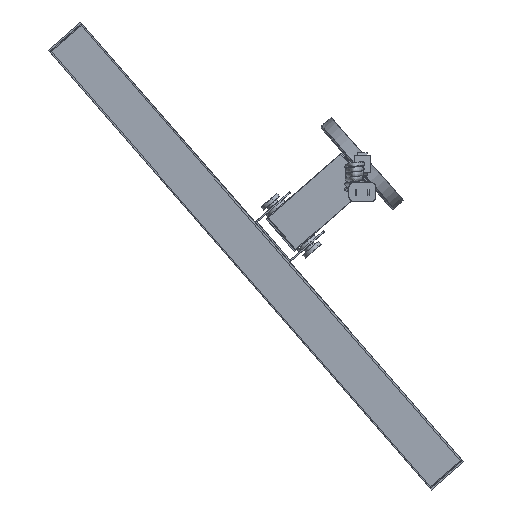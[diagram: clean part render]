
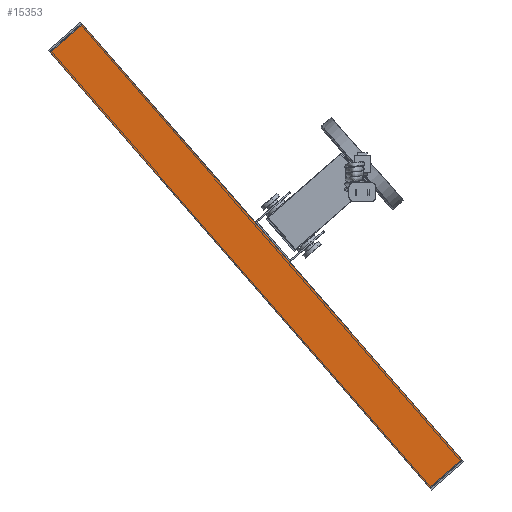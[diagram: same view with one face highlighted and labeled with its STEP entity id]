
A CAD part, left-side view. The second image highlights one B-rep face of the part: STEP entity #15353.
In plain terms, the highlighted planar face has unit normal (-1, 0, 0) as drawn and (0, 0, -1) by its records, which use the part's own axes.
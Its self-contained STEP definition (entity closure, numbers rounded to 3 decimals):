
#13670=CARTESIAN_POINT('',(302.,22.3,-22.5));
#13682=CARTESIAN_POINT('',(-302.,22.3,-22.5));
#13941=CARTESIAN_POINT('',(-302.,-22.3,-22.5));
#13953=DIRECTION('',(0.,1.,0.));
#13954=VECTOR('',#13953,44.6);
#13955=CARTESIAN_POINT('',(302.,-22.3,-22.5));
#13956=LINE('',#13955,#13954);
#13957=DIRECTION('',(-1.,0.,0.));
#13958=VECTOR('',#13957,604.);
#13959=CARTESIAN_POINT('',(302.,22.3,-22.5));
#13960=LINE('',#13959,#13958);
#13961=DIRECTION('',(0.,-1.,0.));
#13962=VECTOR('',#13961,44.6);
#13963=CARTESIAN_POINT('',(-302.,22.3,-22.5));
#13964=LINE('',#13963,#13962);
#13965=DIRECTION('',(-1.,0.,0.));
#13966=VECTOR('',#13965,604.);
#13967=CARTESIAN_POINT('',(302.,-22.3,-22.5));
#13968=LINE('',#13967,#13966);
#14740=VERTEX_POINT('',#13670);
#14741=CARTESIAN_POINT('',(302.,-22.3,-22.5));
#14742=VERTEX_POINT('',#14741);
#14761=VERTEX_POINT('',#13682);
#14768=VERTEX_POINT('',#13941);
#15341=CARTESIAN_POINT('',(-303.,-22.5,-22.5));
#15342=DIRECTION('',(0.,0.,-1.));
#15343=DIRECTION('',(0.,1.,0.));
#15344=AXIS2_PLACEMENT_3D('',#15341,#15342,#15343);
#15345=PLANE('',#15344);
#15346=ORIENTED_EDGE('',*,*,#14938,.T.);
#15347=ORIENTED_EDGE('',*,*,#14964,.T.);
#15349=ORIENTED_EDGE('',*,*,#15348,.T.);
#15350=ORIENTED_EDGE('',*,*,#15329,.F.);
#15351=EDGE_LOOP('',(#15346,#15347,#15349,#15350));
#15352=FACE_OUTER_BOUND('',#15351,.F.);
#14938=EDGE_CURVE('',#14742,#14740,#13956,.T.);
#14964=EDGE_CURVE('',#14740,#14761,#13960,.T.);
#15329=EDGE_CURVE('',#14742,#14768,#13968,.T.);
#15348=EDGE_CURVE('',#14761,#14768,#13964,.T.);
#15353=ADVANCED_FACE('',(#15352),#15345,.T.);
